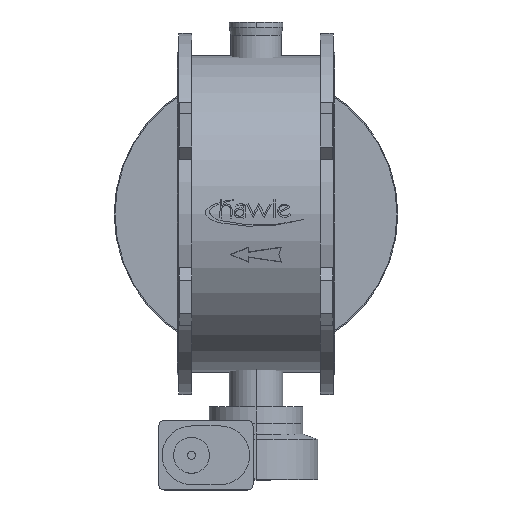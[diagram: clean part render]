
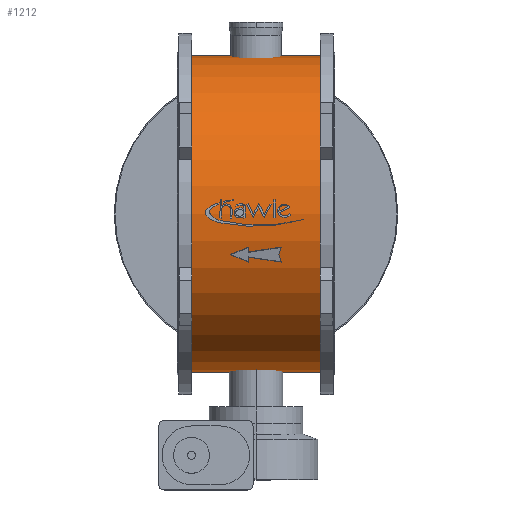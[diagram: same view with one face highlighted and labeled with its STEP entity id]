
A CAD part, top view. The second image highlights one B-rep face of the part: STEP entity #1212.
In plain terms, the highlighted cylindrical face has radius 593 mm (diameter 1186 mm), a partial arc.
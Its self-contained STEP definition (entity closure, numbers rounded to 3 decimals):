
#1212=ADVANCED_FACE('',(#2571),#2572,.T.);
#2571=FACE_OUTER_BOUND('',#4524,.T.);
#2572=CYLINDRICAL_SURFACE('',#4525,593.0);
#4524=EDGE_LOOP('',(#6650,#6651,#6652,#6653));
#4525=AXIS2_PLACEMENT_3D('',#6654,#6655,#6656);
#6650=ORIENTED_EDGE('',*,*,#10583,.T.);
#6651=ORIENTED_EDGE('',*,*,#10584,.T.);
#6652=ORIENTED_EDGE('',*,*,#10585,.T.);
#6653=ORIENTED_EDGE('',*,*,#10337,.T.);
#6654=CARTESIAN_POINT('',(-536.5,0.,0.0));
#6655=DIRECTION('',(1.0,0.,0.0));
#6656=DIRECTION('',(0.,-1.0,0.0));
#10337=EDGE_CURVE('',#12176,#12175,#12178,.T.);
#10583=EDGE_CURVE('',#12175,#12597,#12598,.T.);
#10584=EDGE_CURVE('',#12597,#12599,#12600,.T.);
#10585=EDGE_CURVE('',#12599,#12176,#12601,.T.);
#12175=VERTEX_POINT('',#14701);
#12176=VERTEX_POINT('',#14702);
#12178=CIRCLE('',#14704,593.0);
#12597=VERTEX_POINT('',#15203);
#12598=LINE('',#15204,#15205);
#12599=VERTEX_POINT('',#15206);
#12600=CIRCLE('',#15207,593.0);
#12601=LINE('',#15208,#15209);
#14701=CARTESIAN_POINT('',(-536.5,-593.0,0.0));
#14702=CARTESIAN_POINT('',(-536.5,593.0,0.));
#14704=AXIS2_PLACEMENT_3D('',#17459,#17460,#17461);
#15203=CARTESIAN_POINT('',(-53.5,-593.0,0.0));
#15204=CARTESIAN_POINT('',(-536.5,-593.0,0.));
#15205=VECTOR('',#17911,1.0);
#15206=CARTESIAN_POINT('',(-53.5,593.0,0.));
#15207=AXIS2_PLACEMENT_3D('',#17912,#17913,#17914);
#15208=CARTESIAN_POINT('',(-536.5,593.0,0.));
#15209=VECTOR('',#17915,1.0);
#17459=CARTESIAN_POINT('',(-536.5,0.,0.0));
#17460=DIRECTION('',(1.0,0.,0.0));
#17461=DIRECTION('',(0.,-1.0,0.0));
#17911=DIRECTION('',(1.0,0.,0.0));
#17912=CARTESIAN_POINT('',(-53.5,0.,0.0));
#17913=DIRECTION('',(-1.0,0.,0.0));
#17914=DIRECTION('',(0.,-1.0,0.0));
#17915=DIRECTION('',(-1.0,0.,-0.0));
